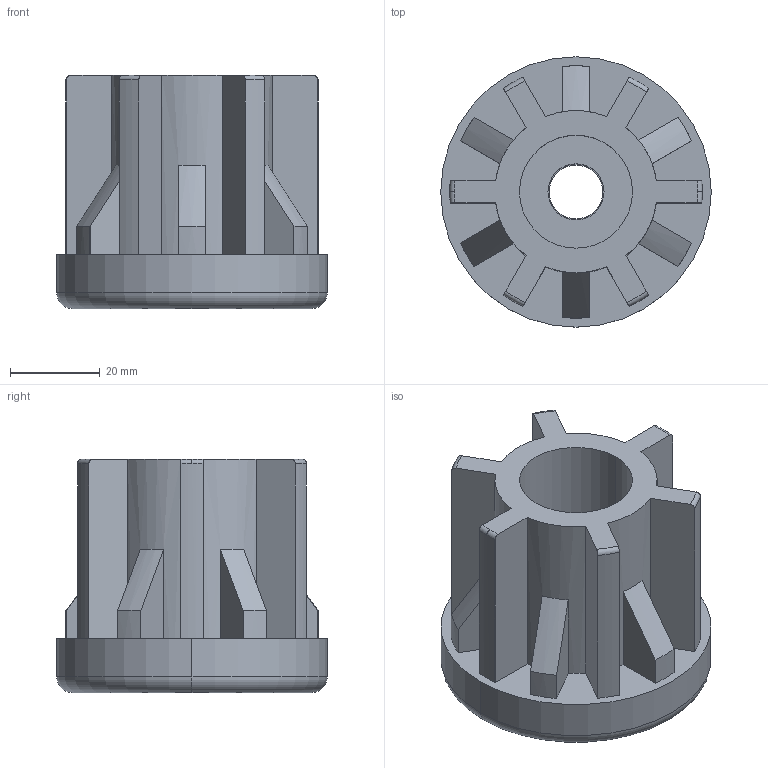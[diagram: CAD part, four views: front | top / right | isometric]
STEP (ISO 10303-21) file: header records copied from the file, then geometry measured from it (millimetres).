
FILE_DESCRIPTION (( 'STEP AP214' ), '1' );
FILE_NAME ('42006460412.STEP', '2020-02-25T17:38:20', ( '' ), ( '' ), 'SwSTEP 2.0', 'SolidWorks 2018', '' );
FILE_SCHEMA (( 'AUTOMOTIVE_DESIGN' ));
Length unit declared in the file: millimetre
Products named in the file (4): 42006460412; BC_M12.stp; 42006460412.stp; corpo tappo M8_60_57.stp
Assembly tree (3 placements, depth 3):
  42006460412
    42006460412.stp
      corpo tappo M8_60_57.stp
      BC_M12.stp
Bounding box: 60.3 x 60.3 x 52 mm (x, y, z)
Volume: 77451.2 mm3; surface area: 22216.9 mm2
Topology: 2 solids, 2 shells, 99 faces, 264 edges, 172 vertices
Faces by surface type: cylinder 44, plane 31, torus 12, cone 6, bspline 6
Entity records: 4110 total; most frequent: CARTESIAN_POINT 1502, DIRECTION 528, ORIENTED_EDGE 528, EDGE_CURVE 264, AXIS2_PLACEMENT_3D 206, VERTEX_POINT 172, VECTOR 116, LINE 116
